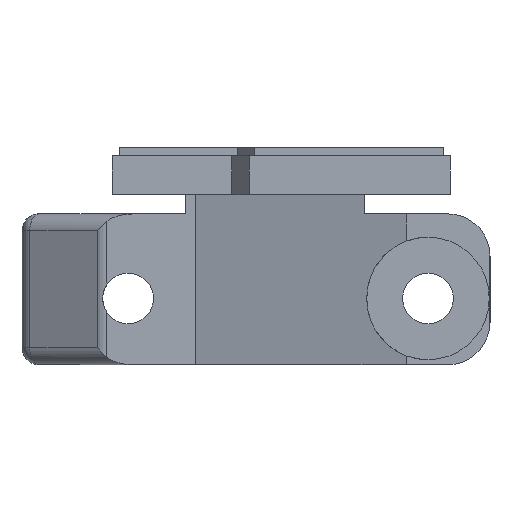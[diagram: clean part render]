
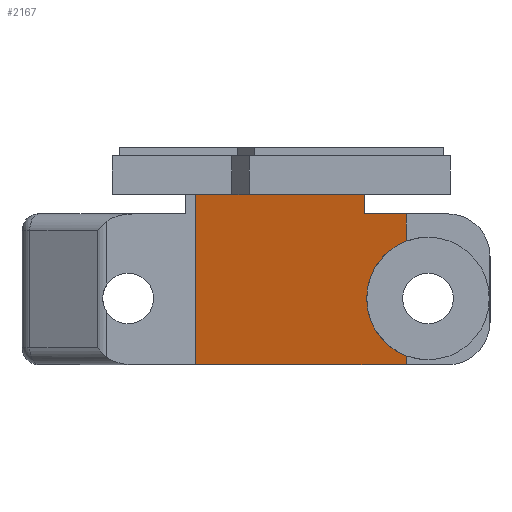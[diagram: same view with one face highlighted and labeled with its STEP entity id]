
A CAD part, left-side view. The second image highlights one B-rep face of the part: STEP entity #2167.
In plain terms, the highlighted planar face has unit normal (-0.962, 0.274, 0).
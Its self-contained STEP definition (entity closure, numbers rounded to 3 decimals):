
#8 = LINE ( 'NONE', #11, #2895 ) ;
#11 = CARTESIAN_POINT ( 'NONE',  ( 256.45, 186.938, -35.615 ) ) ;
#19 = FACE_OUTER_BOUND ( 'NONE', #4273, .T. ) ;
#20 = EDGE_CURVE ( 'NONE', #1057, #1762, #4071, .T. ) ;
#54 = DIRECTION ( 'NONE',  ( 0.274, 0.962, 0. ) ) ;
#157 = VERTEX_POINT ( 'NONE', #1266 ) ;
#254 = DIRECTION ( 'NONE',  ( 0., 0., -1. ) ) ;
#288 = ORIENTED_EDGE ( 'NONE', *, *, #5047, .T. ) ;
#396 = ORIENTED_EDGE ( 'NONE', *, *, #4914, .F. ) ;
#400 = CARTESIAN_POINT ( 'NONE',  ( 258.545, 194.3, -41.687 ) ) ;
#432 = CARTESIAN_POINT ( 'NONE',  ( 258.545, 194.3, -49.572 ) ) ;
#705 =( BOUNDED_CURVE ( )  B_SPLINE_CURVE ( 3, ( #2892, #400, #432, #3347 ),
 .UNSPECIFIED., .F., .F. ) 
 B_SPLINE_CURVE_WITH_KNOTS ( ( 4, 4 ),
 ( 5.079, 7.487 ),
 .UNSPECIFIED. ) 
 CURVE ( )  GEOMETRIC_REPRESENTATION_ITEM ( )  RATIONAL_B_SPLINE_CURVE ( ( 1., 0.572, 0.572, 1. ) ) 
 REPRESENTATION_ITEM ( '' )  );
#948 = CARTESIAN_POINT ( 'NONE',  ( 256.45, 186.938, -38.861 ) ) ;
#982 = LINE ( 'NONE', #4312, #4744 ) ;
#1057 = VERTEX_POINT ( 'NONE', #4076 ) ;
#1061 = VERTEX_POINT ( 'NONE', #2855 ) ;
#1072 = CARTESIAN_POINT ( 'NONE',  ( 256.45, 186.938, -35.615 ) ) ;
#1076 = DIRECTION ( 'NONE',  ( 0.274, 0.962, 0. ) ) ;
#1154 = DIRECTION ( 'NONE',  ( -0.274, -0.962, 0. ) ) ;
#1205 = LINE ( 'NONE', #2050, #1672 ) ;
#1210 = CARTESIAN_POINT ( 'NONE',  ( 256.45, 186.938, -35.615 ) ) ;
#1224 = PLANE ( 'NONE',  #1396 ) ;
#1266 = CARTESIAN_POINT ( 'NONE',  ( 256.45, 186.938, -53.48 ) ) ;
#1396 = AXIS2_PLACEMENT_3D ( 'NONE', #4564, #2142, #2086 ) ;
#1604 = CARTESIAN_POINT ( 'NONE',  ( 257.842, 191.83, -33.33 ) ) ;
#1672 = VECTOR ( 'NONE', #2513, 1000. ) ;
#1762 = VERTEX_POINT ( 'NONE', #948 ) ;
#1948 = ORIENTED_EDGE ( 'NONE', *, *, #2563, .F. ) ;
#2050 = CARTESIAN_POINT ( 'NONE',  ( 257.842, 191.83, -33.33 ) ) ;
#2072 = VERTEX_POINT ( 'NONE', #1604 ) ;
#2086 = DIRECTION ( 'NONE',  ( -0.274, -0.962, 0. ) ) ;
#2142 = DIRECTION ( 'NONE',  ( -0.962, 0.274, 0. ) ) ;
#2167 = ADVANCED_FACE ( 'NONE', ( #19 ), #1224, .T. ) ;
#2175 = EDGE_CURVE ( 'NONE', #2072, #4007, #1205, .T. ) ;
#2287 = VERTEX_POINT ( 'NONE', #4168 ) ;
#2369 = VECTOR ( 'NONE', #1154, 1000. ) ;
#2419 = LINE ( 'NONE', #1072, #5319 ) ;
#2445 = ORIENTED_EDGE ( 'NONE', *, *, #4148, .F. ) ;
#2513 = DIRECTION ( 'NONE',  ( 0., 0., -1. ) ) ;
#2563 = EDGE_CURVE ( 'NONE', #157, #1061, #3486, .T. ) ;
#2757 = CARTESIAN_POINT ( 'NONE',  ( 257.842, 191.83, -35.615 ) ) ;
#2848 = EDGE_CURVE ( 'NONE', #1057, #4007, #8, .T. ) ;
#2855 = CARTESIAN_POINT ( 'NONE',  ( 263.53, 211.816, -53.48 ) ) ;
#2892 = CARTESIAN_POINT ( 'NONE',  ( 256.45, 186.938, -38.861 ) ) ;
#2895 = VECTOR ( 'NONE', #54, 1000. ) ;
#2998 = VERTEX_POINT ( 'NONE', #4458 ) ;
#3347 = CARTESIAN_POINT ( 'NONE',  ( 256.45, 186.938, -52.398 ) ) ;
#3384 = ORIENTED_EDGE ( 'NONE', *, *, #2175, .F. ) ;
#3399 = ORIENTED_EDGE ( 'NONE', *, *, #20, .F. ) ;
#3419 = ORIENTED_EDGE ( 'NONE', *, *, #2848, .T. ) ;
#3486 = LINE ( 'NONE', #3551, #4331 ) ;
#3503 = VECTOR ( 'NONE', #4973, 1000. ) ;
#3551 = CARTESIAN_POINT ( 'NONE',  ( 256.45, 186.938, -53.48 ) ) ;
#4007 = VERTEX_POINT ( 'NONE', #2757 ) ;
#4071 = LINE ( 'NONE', #1210, #3503 ) ;
#4076 = CARTESIAN_POINT ( 'NONE',  ( 256.45, 186.938, -35.615 ) ) ;
#4148 = EDGE_CURVE ( 'NONE', #2287, #2072, #4949, .T. ) ;
#4168 = CARTESIAN_POINT ( 'NONE',  ( 263.53, 211.816, -33.33 ) ) ;
#4253 = DIRECTION ( 'NONE',  ( 0., 0., -1. ) ) ;
#4273 = EDGE_LOOP ( 'NONE', ( #5177, #396, #3399, #3419, #3384, #2445, #288, #1948 ) ) ;
#4312 = CARTESIAN_POINT ( 'NONE',  ( 263.53, 211.816, -35.615 ) ) ;
#4331 = VECTOR ( 'NONE', #1076, 1000. ) ;
#4458 = CARTESIAN_POINT ( 'NONE',  ( 256.45, 186.938, -52.398 ) ) ;
#4498 = CARTESIAN_POINT ( 'NONE',  ( 257.842, 191.83, -33.33 ) ) ;
#4564 = CARTESIAN_POINT ( 'NONE',  ( 256.45, 186.938, -35.615 ) ) ;
#4744 = VECTOR ( 'NONE', #4253, 1000. ) ;
#4914 = EDGE_CURVE ( 'NONE', #1762, #2998, #705, .T. ) ;
#4949 = LINE ( 'NONE', #4498, #2369 ) ;
#4973 = DIRECTION ( 'NONE',  ( 0., 0., -1. ) ) ;
#5047 = EDGE_CURVE ( 'NONE', #2287, #1061, #982, .T. ) ;
#5177 = ORIENTED_EDGE ( 'NONE', *, *, #5363, .F. ) ;
#5319 = VECTOR ( 'NONE', #254, 1000. ) ;
#5363 = EDGE_CURVE ( 'NONE', #2998, #157, #2419, .T. ) ;
